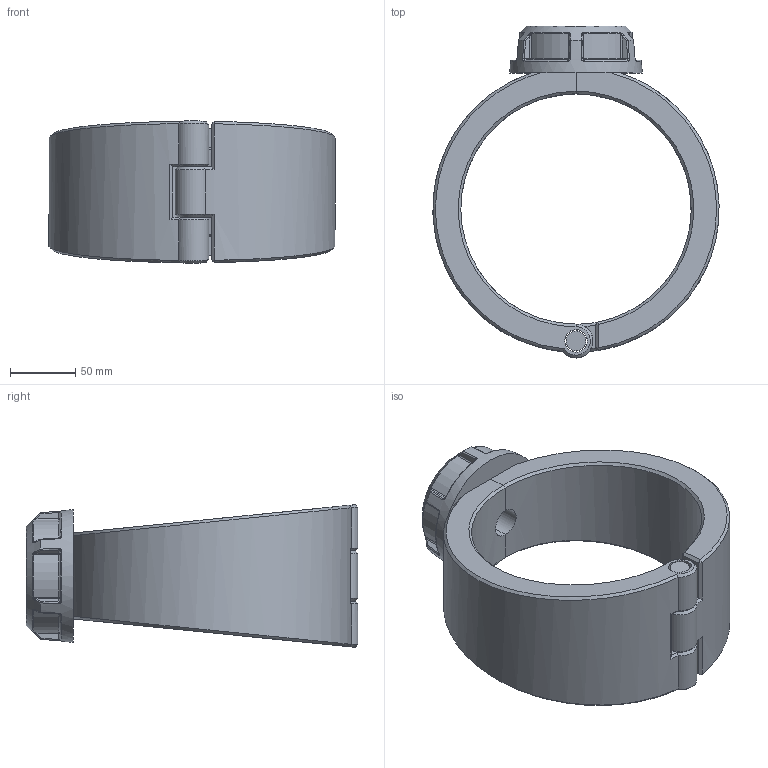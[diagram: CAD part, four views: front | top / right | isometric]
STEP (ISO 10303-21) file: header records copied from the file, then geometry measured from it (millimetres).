
FILE_DESCRIPTION(/* description */ ('Plassadle Threaded 177x1 1/2'''''),/* implementation_level */ '2;1');
FILE_NAME(/* name */ 'C:\Users\comp2\Dropbox\99-16-3568-Processing\Mechanical Fittings\16300\stp\163000177015.stp',/* time_stamp */ '2022-02-03T11:52:16+00:00',/* author */ ('comp2'),/* organization */ (''),/* preprocessor_version */ 'ST-DEVELOPER v17.2',/* originating_system */ 'Autodesk Inventor 2019',/* authorisation */ '');
FILE_SCHEMA (('AUTOMOTIVE_DESIGN { 1 0 10303 214 3 1 1 }'));
Length unit declared in the file: millimetre
Products named in the file (1): 163000177015
Bounding box: 219.89 x 255 x 109.6 mm (x, y, z)
Volume: 1311165.3 mm3; surface area: 179135.9 mm2
Topology: 4 solids, 4 shells, 203 faces, 486 edges, 293 vertices
Faces by surface type: bspline 58, plane 53, cylinder 47, torus 18, cone 15, sphere 12
Full cylindrical faces by diameter (mm): 15.3 x1, 17.3 x3, 22.422 x1, 38.118 x1, 44.845 x1, 67.267 x1
Entity records: 8241 total; most frequent: CARTESIAN_POINT 3894, ORIENTED_EDGE 972, DIRECTION 781, EDGE_CURVE 486, AXIS2_PLACEMENT_3D 330, VERTEX_POINT 293, EDGE_LOOP 213, FACE_OUTER_BOUND 203
